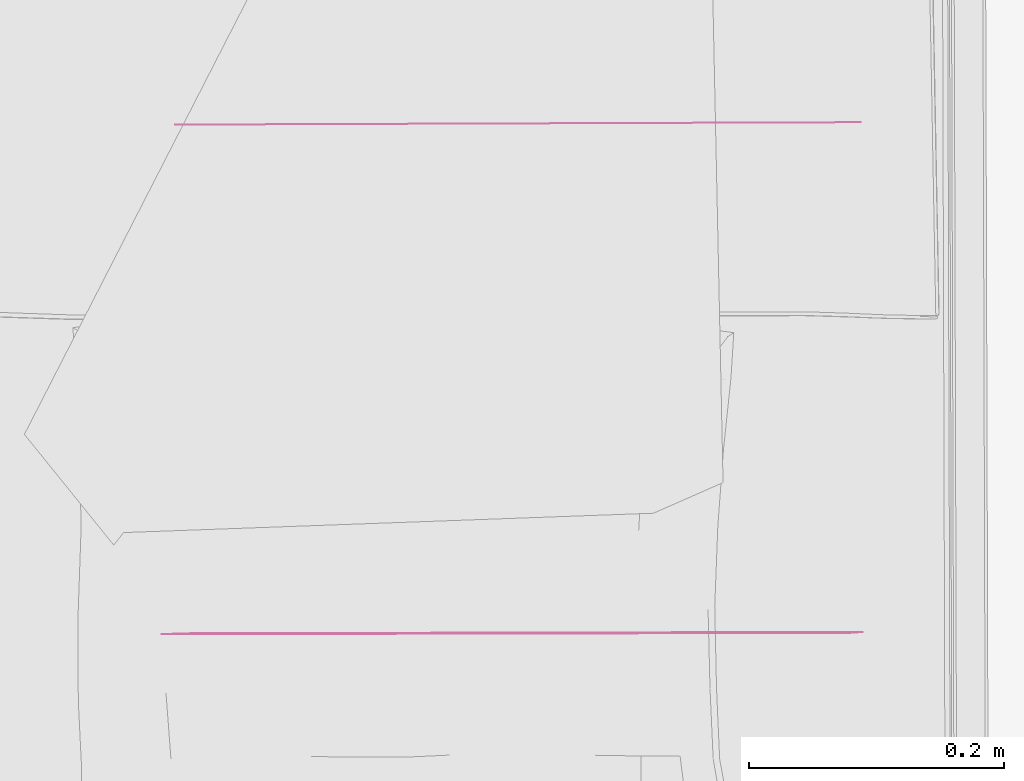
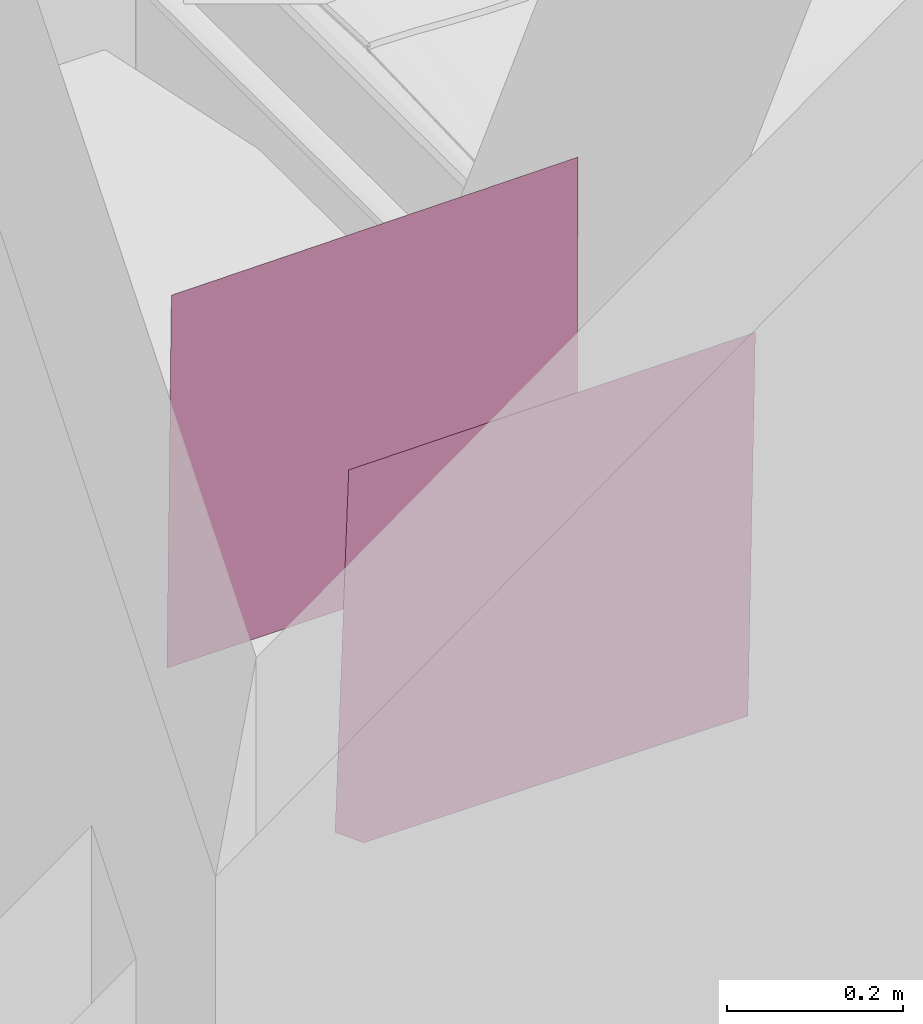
# One storey, part 13 of 15: 2 furniture elements.
"""IFC4 building model written with IfcOpenShell, lengths in metres."""

from ifc_helpers import new_model, si_unit, direction, frame, origin_with_axes, place, context, project, spatial, polygons, shape, element, save


model = new_model("IFC4")

# Units and contexts
model_context = context("Model", 3, precision=1e-05, world=origin_with_axes(), true_north=direction((-0.077, 0.997, 0.0)))
ifc_project = project(units=[si_unit("AREAUNIT", "SQUARE_METRE"), si_unit("LENGTHUNIT", "METRE")], contexts=[model_context])

# Site, building, storey, space
site_placement = place(None, origin_with_axes())
site = spatial("IfcSite", under=ifc_project, at=site_placement, Name="Site", CompositionType="ELEMENT")
building_placement = place(site_placement, origin_with_axes())
building = spatial("IfcBuilding", under=site, at=building_placement, Name="Building", CompositionType="ELEMENT")
storey_placement = place(building_placement, frame((0.0, 0.0, 5.71135139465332), z_axis=(0.0, 0.0, 1.0), x_axis=(1.0, 0.0, 0.0)))
storey = spatial("IfcBuildingStorey", under=building, at=storey_placement, Name="Story 2", CompositionType="ELEMENT", Elevation=5.71135139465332)
space_placement = place(storey_placement, frame((4.15984517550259, -1.64373686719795, 0.0), z_axis=(0.0, 0.0, 1.0), x_axis=(1.0, 0.0, 0.0)))
space = spatial("IfcSpace", under=storey, at=space_placement, Name="016", CompositionType="ELEMENT")

# Furniture
furniture_1_placement = place(space_placement, frame((0.267352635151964, -2.89773602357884, 1.3865065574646), z_axis=(0.999925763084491, 0.0035114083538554, -0.0116686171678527), x_axis=(-0.0116685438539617, -4.13349225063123e-05, -0.999931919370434)))
element("IfcFurniture", 1, at=furniture_1_placement, inside=space, Name="s4", PredefinedType="USERDEFINED", shapes=[
    shape(model_context, None, "Tessellation", [polygons([(-8.88178419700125e-16, -4.82253126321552e-16, -8.88178419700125e-16), (-0.00652926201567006, -3.01841884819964e-16, 0.538351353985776), (-0.523466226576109, -3.7470027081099e-16, 0.532940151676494), (-0.51395339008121, -1.38777878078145e-17, -4.44089209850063e-15)], [[[4, 1, 2]], [[2, 3, 4]]])]),
])
furniture_2_placement = place(space_placement, frame((0.256619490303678, -3.29751339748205, 1.40565013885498), z_axis=(0.999309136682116, 0.00201576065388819, -0.0371502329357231), x_axis=(-0.0371472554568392, -0.00146846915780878, -0.999308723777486)))
element("IfcFurniture", 2, at=furniture_2_placement, inside=space, Name="s3", PredefinedType="USERDEFINED", shapes=[
    shape(model_context, None, "Tessellation", [polygons([(-8.88178419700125e-16, 7.14706072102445e-16, -8.88178419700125e-16), (0.0263974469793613, 1.07205910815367e-15, 0.0385165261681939), (0.00900770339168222, 6.45317133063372e-16, 0.541788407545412), (-0.517985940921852, 8.36136715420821e-16, 0.53249325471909), (-0.494729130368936, 7.63278329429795e-16, 2.91198176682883e-11)], [[[5, 1, 2]], [[2, 3, 4]], [[2, 4, 5]]])]),
])

save(model, "model.ifc")
